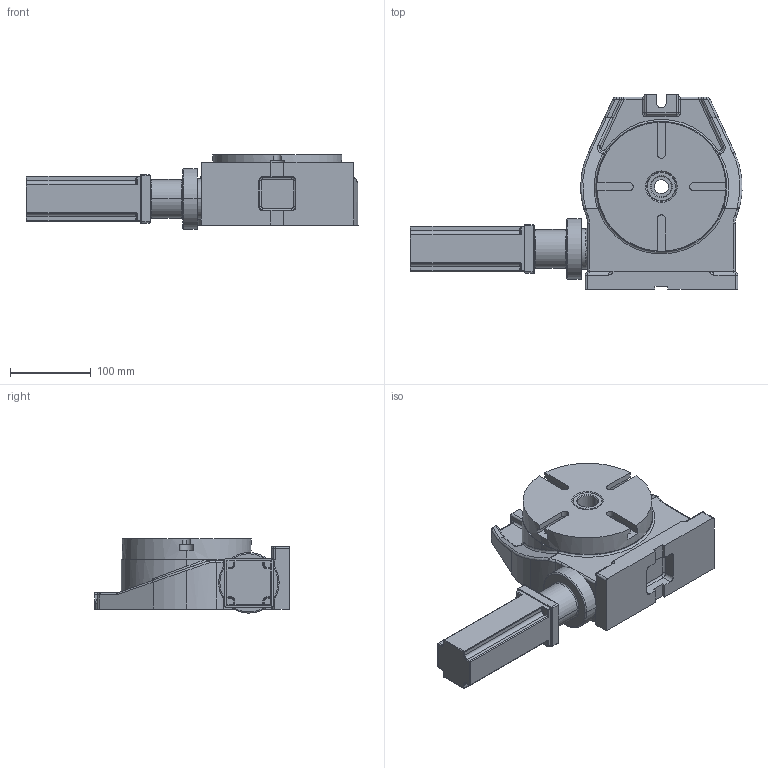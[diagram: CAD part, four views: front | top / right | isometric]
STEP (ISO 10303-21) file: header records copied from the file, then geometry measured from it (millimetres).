
FILE_DESCRIPTION (( 'STEP AP214' ), '1' );
FILE_NAME ('30267_6-INCH_ROTARY_TABLE.STEP', '2014-11-14T21:33:06', ( '' ), ( '' ), 'SwSTEP 2.0', 'SolidWorks 2012', '' );
FILE_SCHEMA (( 'AUTOMOTIVE_DESIGN' ));
Length unit declared in the file: millimetre
Products named in the file (1): 30267_6-INCH_ROTARY_TABLE
Bounding box: 411.37 x 241 x 92 mm (x, y, z)
Volume: 3196013.4 mm3; surface area: 230808.2 mm2
Topology: 1 solids, 1 shells, 359 faces, 870 edges, 502 vertices
Faces by surface type: cylinder 143, plane 102, torus 58, sphere 24, bspline 17, cone 15
Entity records: 11520 total; most frequent: CARTESIAN_POINT 2578, DIRECTION 1886, ORIENTED_EDGE 1696, EDGE_CURVE 848, AXIS2_PLACEMENT_3D 745, VERTEX_POINT 502, CIRCLE 402, LINE 396
